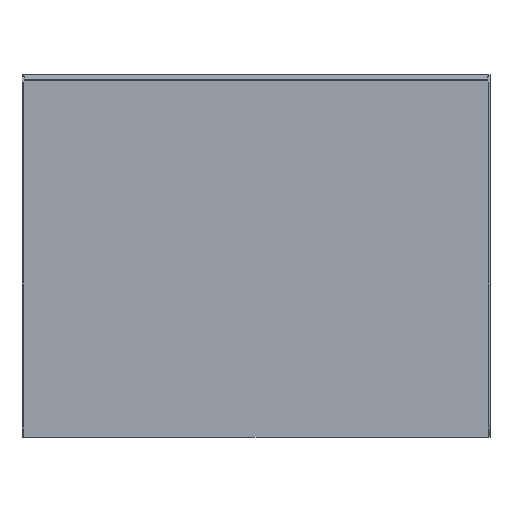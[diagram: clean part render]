
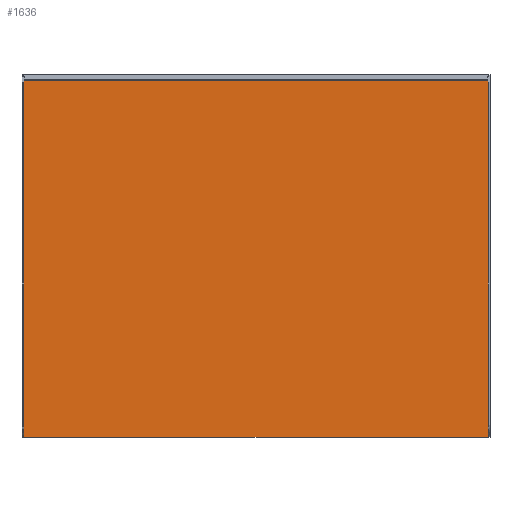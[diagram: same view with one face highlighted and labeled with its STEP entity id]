
A CAD part, front view. The second image highlights one B-rep face of the part: STEP entity #1636.
In plain terms, the highlighted planar face has unit normal (0, -1, 0).
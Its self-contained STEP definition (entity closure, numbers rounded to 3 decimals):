
#3 = CARTESIAN_POINT ( 'NONE',  ( -347., 0., 447. ) ) ;
#122 = CARTESIAN_POINT ( 'NONE',  ( 347., 0., 447. ) ) ;
#133 = VERTEX_POINT ( 'NONE', #1491 ) ;
#137 = EDGE_LOOP ( 'NONE', ( #920, #1444, #1457, #748 ) ) ;
#184 = CARTESIAN_POINT ( 'NONE',  ( 0., 0., 0. ) ) ;
#208 = LINE ( 'NONE', #589, #1638 ) ;
#284 = DIRECTION ( 'NONE',  ( 0., 0., 1. ) ) ;
#294 = VERTEX_POINT ( 'NONE', #1000 ) ;
#327 = EDGE_CURVE ( 'NONE', #133, #472, #906, .T. ) ;
#373 = LINE ( 'NONE', #122, #1512 ) ;
#472 = VERTEX_POINT ( 'NONE', #520 ) ;
#520 = CARTESIAN_POINT ( 'NONE',  ( -347., 0., 447. ) ) ;
#563 = VECTOR ( 'NONE', #284, 1000. ) ;
#589 = CARTESIAN_POINT ( 'NONE',  ( -347., 0., 447. ) ) ;
#597 = FACE_OUTER_BOUND ( 'NONE', #137, .T. ) ;
#673 = VERTEX_POINT ( 'NONE', #1200 ) ;
#748 = ORIENTED_EDGE ( 'NONE', *, *, #1536, .F. ) ;
#816 = DIRECTION ( 'NONE',  ( -1., 0., 0. ) ) ;
#830 = PLANE ( 'NONE',  #836 ) ;
#836 = AXIS2_PLACEMENT_3D ( 'NONE', #184, #1087, #984 ) ;
#906 = LINE ( 'NONE', #3, #563 ) ;
#920 = ORIENTED_EDGE ( 'NONE', *, *, #1265, .F. ) ;
#947 = DIRECTION ( 'NONE',  ( 1., 0., 0. ) ) ;
#984 = DIRECTION ( 'NONE',  ( 0., 0., -1. ) ) ;
#1000 = CARTESIAN_POINT ( 'NONE',  ( 347., 0., -447. ) ) ;
#1087 = DIRECTION ( 'NONE',  ( 0., -1., 0. ) ) ;
#1200 = CARTESIAN_POINT ( 'NONE',  ( 347., 0., 447. ) ) ;
#1251 = DIRECTION ( 'NONE',  ( 0., 0., -1. ) ) ;
#1265 = EDGE_CURVE ( 'NONE', #673, #294, #373, .T. ) ;
#1444 = ORIENTED_EDGE ( 'NONE', *, *, #1515, .F. ) ;
#1457 = ORIENTED_EDGE ( 'NONE', *, *, #327, .F. ) ;
#1470 = CARTESIAN_POINT ( 'NONE',  ( -347., 0., -447. ) ) ;
#1487 = LINE ( 'NONE', #1470, #1580 ) ;
#1491 = CARTESIAN_POINT ( 'NONE',  ( -347., 0., -447. ) ) ;
#1512 = VECTOR ( 'NONE', #1251, 1000. ) ;
#1515 = EDGE_CURVE ( 'NONE', #472, #673, #208, .T. ) ;
#1536 = EDGE_CURVE ( 'NONE', #294, #133, #1487, .T. ) ;
#1580 = VECTOR ( 'NONE', #816, 1000. ) ;
#1636 = ADVANCED_FACE ( 'NONE', ( #597 ), #830, .T. ) ;
#1638 = VECTOR ( 'NONE', #947, 1000. ) ;
